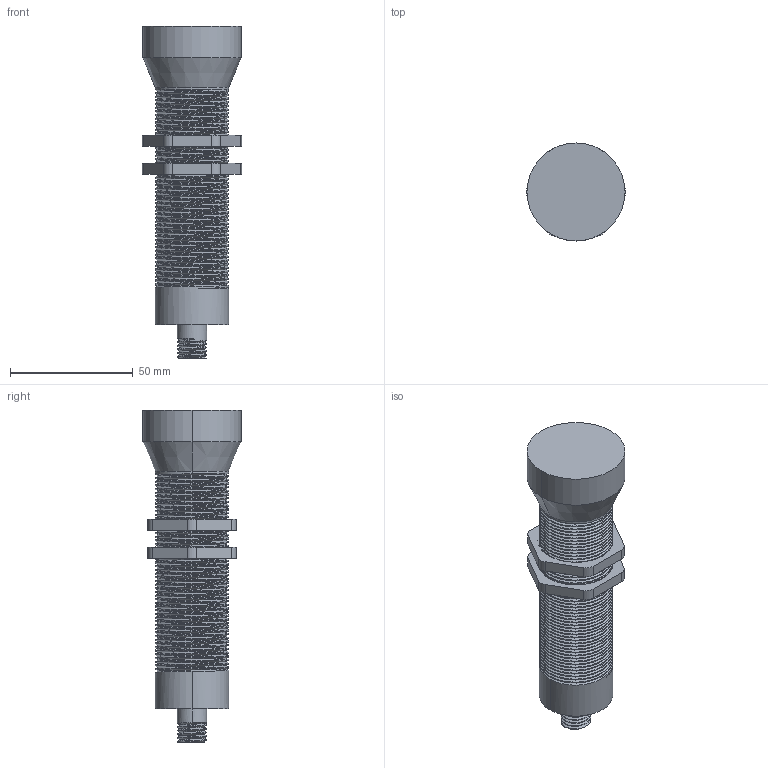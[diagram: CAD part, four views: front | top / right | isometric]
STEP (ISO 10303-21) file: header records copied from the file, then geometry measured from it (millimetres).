
FILE_DESCRIPTION((''),'2;1');
FILE_NAME('M30-TIPY200_ASM','2025-12-24T16:09:08',('28740194'),(''),'CREO PARAMETRIC BY PTC INC, 2024063','CREO PARAMETRIC BY PTC INC, 2024063','');
FILE_SCHEMA(('CONFIG_CONTROL_DESIGN'));
Length unit declared in the file: millimetre
Products named in the file (3): M30-TIPY2; M30000; M30-TIPY200_ASM
Assembly tree (3 placements, depth 2):
  M30-TIPY200_ASM
    M30-TIPY2
    M30000  x2
Bounding box: 40.48 x 40 x 135.5 mm (x, y, z)
Volume: 98610.1 mm3; surface area: 23628.7 mm2
Topology: 3 solids, 3 shells, 236 faces, 646 edges, 417 vertices
Faces by surface type: cylinder 146, bspline 68, plane 20, cone 2
Entity records: 29270 total; most frequent: CARTESIAN_POINT 24738, ORIENTED_EDGE 1152, EDGE_CURVE 576, DIRECTION 555, VERTEX_POINT 371, B_SPLINE_CURVE_WITH_KNOTS 358, EDGE_LOOP 213, FACE_OUTER_BOUND 210
